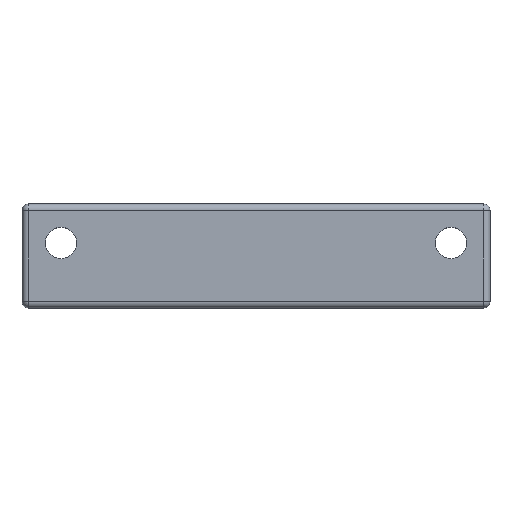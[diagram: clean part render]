
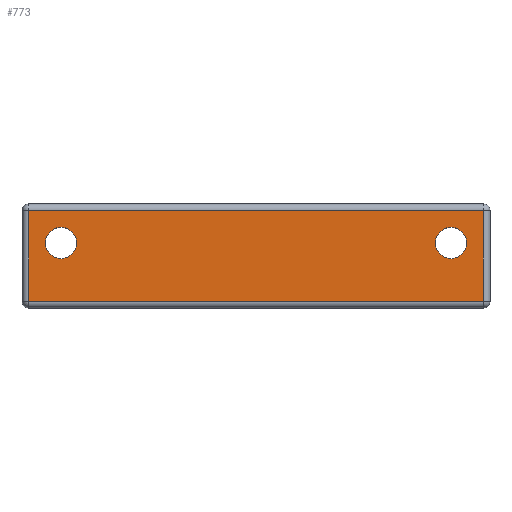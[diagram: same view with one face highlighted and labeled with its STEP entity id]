
A CAD part, top view. The second image highlights one B-rep face of the part: STEP entity #773.
In plain terms, the highlighted planar face has unit normal (0, 0, 1).
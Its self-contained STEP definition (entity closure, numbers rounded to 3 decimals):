
#126 = CYLINDRICAL_SURFACE('',#127,0.5);
#127 = AXIS2_PLACEMENT_3D('',#128,#129,#130);
#128 = CARTESIAN_POINT('',(13.5,-9.,65.75));
#129 = DIRECTION('',(0.,1.,0.));
#130 = DIRECTION('',(-1.,0.,0.));
#309 = VERTEX_POINT('',#310);
#310 = CARTESIAN_POINT('',(13.5,-8.5,66.25));
#330 = EDGE_CURVE('',#309,#331,#333,.T.);
#331 = VERTEX_POINT('',#332);
#332 = CARTESIAN_POINT('',(13.5,-1.5,66.25));
#333 = SURFACE_CURVE('',#334,(#338,#345),.PCURVE_S1.);
#334 = LINE('',#335,#336);
#335 = CARTESIAN_POINT('',(13.5,-9.,66.25));
#336 = VECTOR('',#337,1.);
#337 = DIRECTION('',(0.,1.,0.));
#338 = PCURVE('',#126,#339);
#339 = DEFINITIONAL_REPRESENTATION('',(#340),#344);
#340 = LINE('',#341,#342);
#341 = CARTESIAN_POINT('',(1.571,0.));
#342 = VECTOR('',#343,1.);
#343 = DIRECTION('',(0.,1.));
#344 = ( GEOMETRIC_REPRESENTATION_CONTEXT(2) 
PARAMETRIC_REPRESENTATION_CONTEXT() REPRESENTATION_CONTEXT('2D SPACE',''
  ) );
#345 = PCURVE('',#346,#351);
#346 = PLANE('',#347);
#347 = AXIS2_PLACEMENT_3D('',#348,#349,#350);
#348 = CARTESIAN_POINT('',(13.,-9.,66.25));
#349 = DIRECTION('',(0.,0.,1.));
#350 = DIRECTION('',(1.,0.,0.));
#351 = DEFINITIONAL_REPRESENTATION('',(#352),#356);
#352 = LINE('',#353,#354);
#353 = CARTESIAN_POINT('',(0.5,0.));
#354 = VECTOR('',#355,1.);
#355 = DIRECTION('',(0.,1.));
#356 = ( GEOMETRIC_REPRESENTATION_CONTEXT(2) 
PARAMETRIC_REPRESENTATION_CONTEXT() REPRESENTATION_CONTEXT('2D SPACE',''
  ) );
#510 = CYLINDRICAL_SURFACE('',#511,0.5);
#511 = AXIS2_PLACEMENT_3D('',#512,#513,#514);
#512 = CARTESIAN_POINT('',(13.,-8.5,65.75));
#513 = DIRECTION('',(1.,0.,0.));
#514 = DIRECTION('',(0.,-1.,0.));
#702 = CYLINDRICAL_SURFACE('',#703,1.2);
#703 = AXIS2_PLACEMENT_3D('',#704,#705,#706);
#704 = CARTESIAN_POINT('',(16.,-4.,63.));
#705 = DIRECTION('',(-0.,-0.,-1.));
#706 = DIRECTION('',(1.,0.,0.));
#737 = CYLINDRICAL_SURFACE('',#738,1.2);
#738 = AXIS2_PLACEMENT_3D('',#739,#740,#741);
#739 = CARTESIAN_POINT('',(46.,-4.,63.));
#740 = DIRECTION('',(-0.,-0.,-1.));
#741 = DIRECTION('',(1.,0.,0.));
#773 = ADVANCED_FACE('',(#774,#854,#884),#346,.T.);
#774 = FACE_BOUND('',#775,.T.);
#775 = EDGE_LOOP('',(#776,#777,#800,#828));
#776 = ORIENTED_EDGE('',*,*,#330,.F.);
#777 = ORIENTED_EDGE('',*,*,#778,.T.);
#778 = EDGE_CURVE('',#309,#779,#781,.T.);
#779 = VERTEX_POINT('',#780);
#780 = CARTESIAN_POINT('',(48.5,-8.5,66.25));
#781 = SURFACE_CURVE('',#782,(#786,#793),.PCURVE_S1.);
#782 = LINE('',#783,#784);
#783 = CARTESIAN_POINT('',(13.,-8.5,66.25));
#784 = VECTOR('',#785,1.);
#785 = DIRECTION('',(1.,0.,0.));
#786 = PCURVE('',#346,#787);
#787 = DEFINITIONAL_REPRESENTATION('',(#788),#792);
#788 = LINE('',#789,#790);
#789 = CARTESIAN_POINT('',(0.,0.5));
#790 = VECTOR('',#791,1.);
#791 = DIRECTION('',(1.,0.));
#792 = ( GEOMETRIC_REPRESENTATION_CONTEXT(2) 
PARAMETRIC_REPRESENTATION_CONTEXT() REPRESENTATION_CONTEXT('2D SPACE',''
  ) );
#793 = PCURVE('',#510,#794);
#794 = DEFINITIONAL_REPRESENTATION('',(#795),#799);
#795 = LINE('',#796,#797);
#796 = CARTESIAN_POINT('',(-1.571,0.));
#797 = VECTOR('',#798,1.);
#798 = DIRECTION('',(-0.,1.));
#799 = ( GEOMETRIC_REPRESENTATION_CONTEXT(2) 
PARAMETRIC_REPRESENTATION_CONTEXT() REPRESENTATION_CONTEXT('2D SPACE',''
  ) );
#800 = ORIENTED_EDGE('',*,*,#801,.T.);
#801 = EDGE_CURVE('',#779,#802,#804,.T.);
#802 = VERTEX_POINT('',#803);
#803 = CARTESIAN_POINT('',(48.5,-1.5,66.25));
#804 = SURFACE_CURVE('',#805,(#809,#816),.PCURVE_S1.);
#805 = LINE('',#806,#807);
#806 = CARTESIAN_POINT('',(48.5,-9.,66.25));
#807 = VECTOR('',#808,1.);
#808 = DIRECTION('',(0.,1.,0.));
#809 = PCURVE('',#346,#810);
#810 = DEFINITIONAL_REPRESENTATION('',(#811),#815);
#811 = LINE('',#812,#813);
#812 = CARTESIAN_POINT('',(35.5,0.));
#813 = VECTOR('',#814,1.);
#814 = DIRECTION('',(0.,1.));
#815 = ( GEOMETRIC_REPRESENTATION_CONTEXT(2) 
PARAMETRIC_REPRESENTATION_CONTEXT() REPRESENTATION_CONTEXT('2D SPACE',''
  ) );
#816 = PCURVE('',#817,#822);
#817 = CYLINDRICAL_SURFACE('',#818,0.5);
#818 = AXIS2_PLACEMENT_3D('',#819,#820,#821);
#819 = CARTESIAN_POINT('',(48.5,-9.,65.75));
#820 = DIRECTION('',(0.,1.,0.));
#821 = DIRECTION('',(1.,0.,-0.));
#822 = DEFINITIONAL_REPRESENTATION('',(#823),#827);
#823 = LINE('',#824,#825);
#824 = CARTESIAN_POINT('',(-1.571,0.));
#825 = VECTOR('',#826,1.);
#826 = DIRECTION('',(-0.,1.));
#827 = ( GEOMETRIC_REPRESENTATION_CONTEXT(2) 
PARAMETRIC_REPRESENTATION_CONTEXT() REPRESENTATION_CONTEXT('2D SPACE',''
  ) );
#828 = ORIENTED_EDGE('',*,*,#829,.F.);
#829 = EDGE_CURVE('',#331,#802,#830,.T.);
#830 = SURFACE_CURVE('',#831,(#835,#842),.PCURVE_S1.);
#831 = LINE('',#832,#833);
#832 = CARTESIAN_POINT('',(13.,-1.5,66.25));
#833 = VECTOR('',#834,1.);
#834 = DIRECTION('',(1.,0.,0.));
#835 = PCURVE('',#346,#836);
#836 = DEFINITIONAL_REPRESENTATION('',(#837),#841);
#837 = LINE('',#838,#839);
#838 = CARTESIAN_POINT('',(0.,7.5));
#839 = VECTOR('',#840,1.);
#840 = DIRECTION('',(1.,0.));
#841 = ( GEOMETRIC_REPRESENTATION_CONTEXT(2) 
PARAMETRIC_REPRESENTATION_CONTEXT() REPRESENTATION_CONTEXT('2D SPACE',''
  ) );
#842 = PCURVE('',#843,#848);
#843 = CYLINDRICAL_SURFACE('',#844,0.5);
#844 = AXIS2_PLACEMENT_3D('',#845,#846,#847);
#845 = CARTESIAN_POINT('',(13.,-1.5,65.75));
#846 = DIRECTION('',(1.,0.,0.));
#847 = DIRECTION('',(-0.,1.,0.));
#848 = DEFINITIONAL_REPRESENTATION('',(#849),#853);
#849 = LINE('',#850,#851);
#850 = CARTESIAN_POINT('',(1.571,0.));
#851 = VECTOR('',#852,1.);
#852 = DIRECTION('',(0.,1.));
#853 = ( GEOMETRIC_REPRESENTATION_CONTEXT(2) 
PARAMETRIC_REPRESENTATION_CONTEXT() REPRESENTATION_CONTEXT('2D SPACE',''
  ) );
#854 = FACE_BOUND('',#855,.T.);
#855 = EDGE_LOOP('',(#856));
#856 = ORIENTED_EDGE('',*,*,#857,.T.);
#857 = EDGE_CURVE('',#858,#858,#860,.T.);
#858 = VERTEX_POINT('',#859);
#859 = CARTESIAN_POINT('',(17.2,-4.,66.25));
#860 = SURFACE_CURVE('',#861,(#866,#877),.PCURVE_S1.);
#861 = CIRCLE('',#862,1.2);
#862 = AXIS2_PLACEMENT_3D('',#863,#864,#865);
#863 = CARTESIAN_POINT('',(16.,-4.,66.25));
#864 = DIRECTION('',(0.,0.,-1.));
#865 = DIRECTION('',(1.,0.,0.));
#866 = PCURVE('',#346,#867);
#867 = DEFINITIONAL_REPRESENTATION('',(#868),#876);
#868 = ( BOUNDED_CURVE() B_SPLINE_CURVE(2,(#869,#870,#871,#872,#873,#874
,#875),.UNSPECIFIED.,.T.,.F.) B_SPLINE_CURVE_WITH_KNOTS((1,2,2,2,2,1),(
    -2.094,0.,2.094,4.189,6.283,
8.378),.UNSPECIFIED.) CURVE() GEOMETRIC_REPRESENTATION_ITEM() 
RATIONAL_B_SPLINE_CURVE((1.,0.5,1.,0.5,1.,0.5,1.)) REPRESENTATION_ITEM(
  '') );
#869 = CARTESIAN_POINT('',(4.2,5.));
#870 = CARTESIAN_POINT('',(4.2,2.922));
#871 = CARTESIAN_POINT('',(2.4,3.961));
#872 = CARTESIAN_POINT('',(0.6,5.));
#873 = CARTESIAN_POINT('',(2.4,6.039));
#874 = CARTESIAN_POINT('',(4.2,7.078));
#875 = CARTESIAN_POINT('',(4.2,5.));
#876 = ( GEOMETRIC_REPRESENTATION_CONTEXT(2) 
PARAMETRIC_REPRESENTATION_CONTEXT() REPRESENTATION_CONTEXT('2D SPACE',''
  ) );
#877 = PCURVE('',#702,#878);
#878 = DEFINITIONAL_REPRESENTATION('',(#879),#883);
#879 = LINE('',#880,#881);
#880 = CARTESIAN_POINT('',(-6.283,-3.25));
#881 = VECTOR('',#882,1.);
#882 = DIRECTION('',(1.,-0.));
#883 = ( GEOMETRIC_REPRESENTATION_CONTEXT(2) 
PARAMETRIC_REPRESENTATION_CONTEXT() REPRESENTATION_CONTEXT('2D SPACE',''
  ) );
#884 = FACE_BOUND('',#885,.T.);
#885 = EDGE_LOOP('',(#886));
#886 = ORIENTED_EDGE('',*,*,#887,.T.);
#887 = EDGE_CURVE('',#888,#888,#890,.T.);
#888 = VERTEX_POINT('',#889);
#889 = CARTESIAN_POINT('',(47.2,-4.,66.25));
#890 = SURFACE_CURVE('',#891,(#896,#907),.PCURVE_S1.);
#891 = CIRCLE('',#892,1.2);
#892 = AXIS2_PLACEMENT_3D('',#893,#894,#895);
#893 = CARTESIAN_POINT('',(46.,-4.,66.25));
#894 = DIRECTION('',(0.,0.,-1.));
#895 = DIRECTION('',(1.,0.,0.));
#896 = PCURVE('',#346,#897);
#897 = DEFINITIONAL_REPRESENTATION('',(#898),#906);
#898 = ( BOUNDED_CURVE() B_SPLINE_CURVE(2,(#899,#900,#901,#902,#903,#904
,#905),.UNSPECIFIED.,.T.,.F.) B_SPLINE_CURVE_WITH_KNOTS((1,2,2,2,2,1),(
    -2.094,0.,2.094,4.189,6.283,
8.378),.UNSPECIFIED.) CURVE() GEOMETRIC_REPRESENTATION_ITEM() 
RATIONAL_B_SPLINE_CURVE((1.,0.5,1.,0.5,1.,0.5,1.)) REPRESENTATION_ITEM(
  '') );
#899 = CARTESIAN_POINT('',(34.2,5.));
#900 = CARTESIAN_POINT('',(34.2,2.922));
#901 = CARTESIAN_POINT('',(32.4,3.961));
#902 = CARTESIAN_POINT('',(30.6,5.));
#903 = CARTESIAN_POINT('',(32.4,6.039));
#904 = CARTESIAN_POINT('',(34.2,7.078));
#905 = CARTESIAN_POINT('',(34.2,5.));
#906 = ( GEOMETRIC_REPRESENTATION_CONTEXT(2) 
PARAMETRIC_REPRESENTATION_CONTEXT() REPRESENTATION_CONTEXT('2D SPACE',''
  ) );
#907 = PCURVE('',#737,#908);
#908 = DEFINITIONAL_REPRESENTATION('',(#909),#913);
#909 = LINE('',#910,#911);
#910 = CARTESIAN_POINT('',(-6.283,-3.25));
#911 = VECTOR('',#912,1.);
#912 = DIRECTION('',(1.,-0.));
#913 = ( GEOMETRIC_REPRESENTATION_CONTEXT(2) 
PARAMETRIC_REPRESENTATION_CONTEXT() REPRESENTATION_CONTEXT('2D SPACE',''
  ) );
